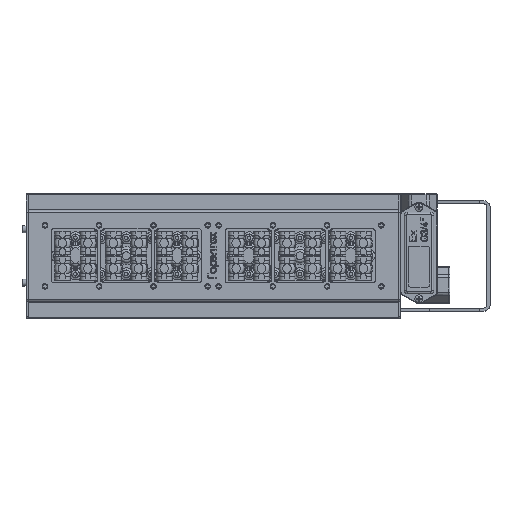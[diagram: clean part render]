
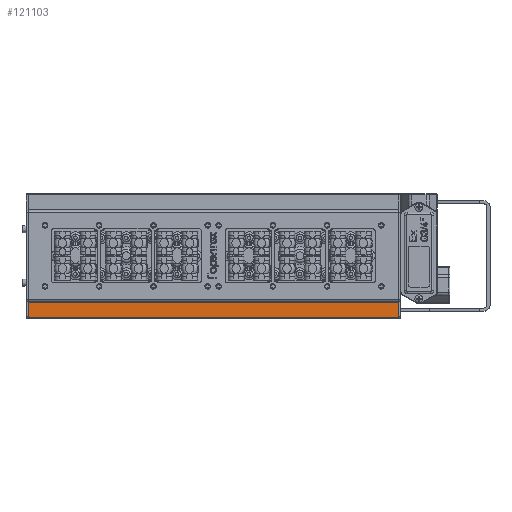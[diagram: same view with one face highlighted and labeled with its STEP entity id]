
A CAD part, top view. The second image highlights one B-rep face of the part: STEP entity #121103.
In plain terms, the highlighted planar face has unit normal (0, 0, 1).
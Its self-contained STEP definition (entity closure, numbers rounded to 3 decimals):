
#590 = VERTEX_POINT ( 'NONE', #62755 ) ;
#3444 = ORIENTED_EDGE ( 'NONE', *, *, #99977, .F. ) ;
#11007 = LINE ( 'NONE', #43223, #68084 ) ;
#11706 = CARTESIAN_POINT ( 'NONE',  ( 2., -46.799, 53.7 ) ) ;
#17251 = VERTEX_POINT ( 'NONE', #77043 ) ;
#23395 = EDGE_LOOP ( 'NONE', ( #69929, #3444, #103152, #41566 ) ) ;
#24938 = EDGE_CURVE ( 'NONE', #42653, #117941, #143413, .T. ) ;
#25833 = DIRECTION ( 'NONE',  ( 0., 0., 1. ) ) ;
#28706 = DIRECTION ( 'NONE',  ( -1., 0., 0. ) ) ;
#30691 = DIRECTION ( 'NONE',  ( 0., 1., 0. ) ) ;
#39216 = VECTOR ( 'NONE', #136914, 1000. ) ;
#41566 = ORIENTED_EDGE ( 'NONE', *, *, #83125, .F. ) ;
#42653 = VERTEX_POINT ( 'NONE', #85045 ) ;
#43198 = CARTESIAN_POINT ( 'NONE',  ( 2., -61.65, 53.7 ) ) ;
#43223 = CARTESIAN_POINT ( 'NONE',  ( 2., -31., 53.7 ) ) ;
#45945 = CARTESIAN_POINT ( 'NONE',  ( 2., -61.65, 53.7 ) ) ;
#46408 = AXIS2_PLACEMENT_3D ( 'NONE', #56831, #25833, #101908 ) ;
#50432 = FACE_OUTER_BOUND ( 'NONE', #23395, .T. ) ;
#53137 = LINE ( 'NONE', #91909, #39216 ) ;
#55282 = DIRECTION ( 'NONE',  ( 1., 0., 0. ) ) ;
#56831 = CARTESIAN_POINT ( 'NONE',  ( 2., -62., 53.7 ) ) ;
#61498 = EDGE_CURVE ( 'NONE', #590, #17251, #117350, .T. ) ;
#62755 = CARTESIAN_POINT ( 'NONE',  ( 2., -46.799, 53.7 ) ) ;
#68084 = VECTOR ( 'NONE', #30691, 1000. ) ;
#69929 = ORIENTED_EDGE ( 'NONE', *, *, #24938, .F. ) ;
#77043 = CARTESIAN_POINT ( 'NONE',  ( 372., -46.799, 53.7 ) ) ;
#83125 = EDGE_CURVE ( 'NONE', #117941, #590, #11007, .T. ) ;
#85045 = CARTESIAN_POINT ( 'NONE',  ( 372., -61.65, 53.7 ) ) ;
#91909 = CARTESIAN_POINT ( 'NONE',  ( 372., -31., 53.7 ) ) ;
#98342 = VECTOR ( 'NONE', #55282, 1000. ) ;
#99977 = EDGE_CURVE ( 'NONE', #17251, #42653, #53137, .T. ) ;
#101908 = DIRECTION ( 'NONE',  ( 0., -1., 0. ) ) ;
#103152 = ORIENTED_EDGE ( 'NONE', *, *, #61498, .F. ) ;
#108672 = VECTOR ( 'NONE', #28706, 1000. ) ;
#117350 = LINE ( 'NONE', #11706, #98342 ) ;
#117941 = VERTEX_POINT ( 'NONE', #45945 ) ;
#121103 = ADVANCED_FACE ( 'NONE', ( #50432 ), #123657, .T. ) ;
#123657 = PLANE ( 'NONE',  #46408 ) ;
#136914 = DIRECTION ( 'NONE',  ( 0., -1., 0. ) ) ;
#143413 = LINE ( 'NONE', #43198, #108672 ) ;
